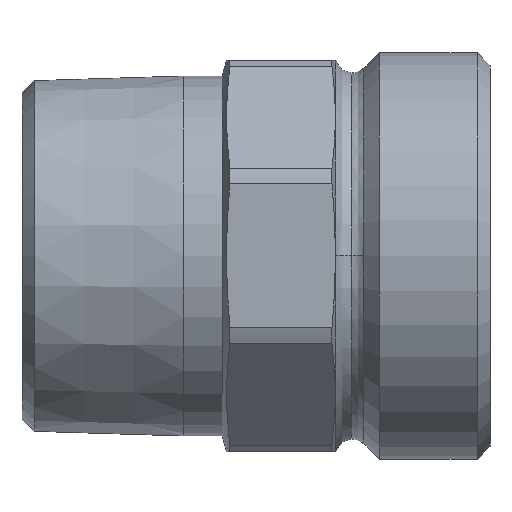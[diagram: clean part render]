
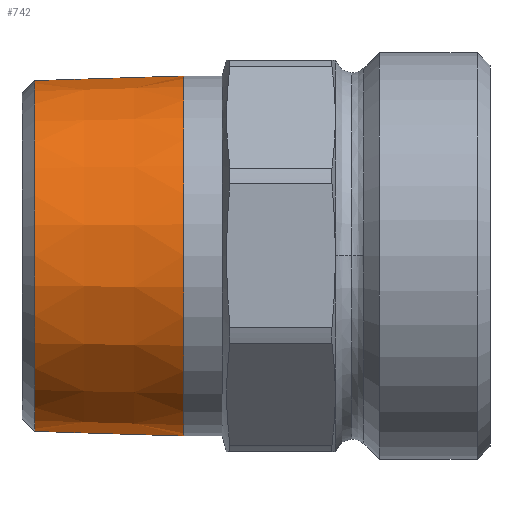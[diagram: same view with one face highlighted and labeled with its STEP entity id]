
A CAD part, top view. The second image highlights one B-rep face of the part: STEP entity #742.
In plain terms, the highlighted conical face has half-angle 1.78 degrees and reference radius 20.855 mm.
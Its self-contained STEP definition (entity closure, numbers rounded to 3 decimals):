
#355=CARTESIAN_POINT('',(19.,21.15,0.0));
#356=VERTEX_POINT('',#355);
#365=CARTESIAN_POINT('',(19.,-21.15,0.));
#366=VERTEX_POINT('',#365);
#367=CARTESIAN_POINT('',(19.,0.0,0.0));
#368=DIRECTION('',(1.0,0.0,0.0));
#369=DIRECTION('',(0.0,1.0,0.0));
#370=AXIS2_PLACEMENT_3D('',#367,#368,#369);
#371=CIRCLE('',#370,21.15);
#372=EDGE_CURVE('',#356,#366,#371,.T.);
#711=CARTESIAN_POINT('',(9.5,0.0,0.0));
#712=DIRECTION('',(1.0,0.0,0.0));
#713=DIRECTION('',(0.0,1.0,0.0));
#714=AXIS2_PLACEMENT_3D('',#711,#712,#713);
#715=CONICAL_SURFACE('',#714,20.855,1.78);
#716=CARTESIAN_POINT('',(1.499,20.607,0.));
#717=VERTEX_POINT('',#716);
#718=CARTESIAN_POINT('',(1.499,20.607,0.));
#719=DIRECTION('',(1.,0.031,0.));
#720=VECTOR('',#719,17.509);
#721=LINE('',#718,#720);
#722=EDGE_CURVE('',#717,#356,#721,.T.);
#723=ORIENTED_EDGE('',*,*,#722,.F.);
#724=CARTESIAN_POINT('',(1.499,-20.607,0.));
#725=VERTEX_POINT('',#724);
#726=CARTESIAN_POINT('',(1.499,0.0,0.));
#727=DIRECTION('',(-1.0,0.0,0.0));
#728=DIRECTION('',(0.0,-1.0,0.0));
#729=AXIS2_PLACEMENT_3D('',#726,#727,#728);
#730=CIRCLE('',#729,20.607);
#731=EDGE_CURVE('',#725,#717,#730,.T.);
#732=ORIENTED_EDGE('',*,*,#731,.F.);
#733=CARTESIAN_POINT('',(19.,-21.15,0.));
#734=DIRECTION('',(-1.,0.031,0.));
#735=VECTOR('',#734,17.509);
#736=LINE('',#733,#735);
#737=EDGE_CURVE('',#366,#725,#736,.T.);
#738=ORIENTED_EDGE('',*,*,#737,.F.);
#739=ORIENTED_EDGE('',*,*,#372,.F.);
#740=EDGE_LOOP('',(#723,#732,#738,#739));
#741=FACE_OUTER_BOUND('',#740,.T.);
#742=ADVANCED_FACE('',(#741),#715,.T.);
